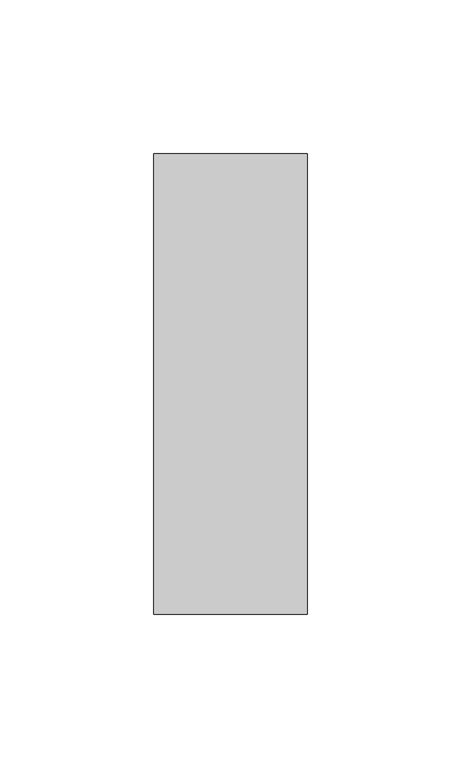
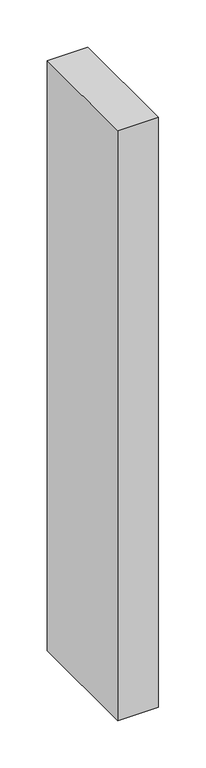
"""IFC4 building model written with IfcOpenShell, lengths in millimetres: member geometry, Прямоугольный импост : 50 x 150 мм."""

import ifcopenshell
import ifcopenshell.guid

model = None  # the IFC model being written
_history = None  # IfcOwnerHistory: only IFC2X3 demands one
_inside = {}  # id of a spatial element -> (the spatial element, [elements in it])
_under = {}  # id of a project, library or spatial element -> (it, [spatial elements below it])
_declared = {}  # id of a project -> (the project, [libraries it declares])
_typed = {}  # id of a type object -> (the type object, [elements of that type])
_made_of = {}  # id of a material, layer set ... -> (it, [elements and type objects made of it])


def new_model(schema):
    """Start an empty IFC model of exactly this schema.

    Asked for "IFC4X3", IfcOpenShell would pick the latest addendum, in which some entities
    have other attributes; the version numbers below select the first issue.
    IFC2X3 requires an IfcOwnerHistory on every rooted entity: one is made here for all.
    """
    global model, _history
    if schema == "IFC4X3":
        model = ifcopenshell.file(schema_version=(4, 3, 0, 0))
    else:
        model = ifcopenshell.file(schema=schema)
    _inside.clear()
    _under.clear()
    _declared.clear()
    _typed.clear()
    _made_of.clear()
    _history = None
    if model.schema == "IFC2X3":
        org = make("IfcOrganization", Name="unknown")
        user = make(
            "IfcPersonAndOrganization",
            ThePerson=make("IfcPerson", FamilyName="unknown"),
            TheOrganization=org,
        )
        app = make(
            "IfcApplication",
            ApplicationDeveloper=org,
            Version="unknown",
            ApplicationFullName="unknown",
            ApplicationIdentifier="unknown",
        )
        _history = make(
            "IfcOwnerHistory",
            OwningUser=user,
            OwningApplication=app,
            ChangeAction="ADDED",
            CreationDate=0,
        )
    return model


def make(cls, **values):
    """One entity of the class cls with the attributes given. An attribute that is None is left unset."""
    return model.create_entity(
        cls, **{name: value for name, value in values.items() if value is not None}
    )


def rooted(cls, **values):
    """An entity with a GlobalId (a new one), such as an element, a storey or a relation."""
    return make(cls, GlobalId=ifcopenshell.guid.new(), OwnerHistory=_history, **values)


def si_unit(unit_type, name, prefix=None):
    """IfcSIUnit, for example si_unit("LENGTHUNIT", "METRE", prefix="MILLI")."""
    return make("IfcSIUnit", UnitType=unit_type, Prefix=prefix, Name=name)


def assignment(units):
    """IfcUnitAssignment: the units of a project."""
    return None if units is None else make("IfcUnitAssignment", Units=units)


def point(xyz):
    """IfcCartesianPoint."""
    return None if xyz is None else make("IfcCartesianPoint", Coordinates=xyz)


def direction(xyz):
    """IfcDirection."""
    return None if xyz is None else make("IfcDirection", DirectionRatios=xyz)


def frame(location, z_axis=None, x_axis=None):
    """IfcAxis2Placement3D, a coordinate frame: its origin and axes. An axis left out is left unset."""
    return make(
        "IfcAxis2Placement3D",
        Location=point(location),
        Axis=direction(z_axis),
        RefDirection=direction(x_axis),
    )


def origin():
    """The frame at (0, 0, 0) with its axes left unset."""
    return frame((0.0, 0.0, 0.0))


def place(relative_to, where):
    """IfcLocalPlacement: puts the frame where relative to a parent placement (None: the world)."""
    return make(
        "IfcLocalPlacement", PlacementRelTo=relative_to, RelativePlacement=where
    )


def context(
    kind, dimensions, precision=None, world=None, true_north=None, identifier=None
):
    """IfcGeometricRepresentationContext, for example the 3D "Model" context."""
    return make(
        "IfcGeometricRepresentationContext",
        ContextIdentifier=identifier,
        ContextType=kind,
        CoordinateSpaceDimension=dimensions,
        Precision=precision,
        WorldCoordinateSystem=world,
        TrueNorth=true_north,
    )


def project(units=None, contexts=None):
    """IfcProject with its units and contexts."""
    return rooted(
        "IfcProject",
        Name="project",
        RepresentationContexts=contexts,
        UnitsInContext=assignment(units),
    )


def spatial(cls, under=None, at=None, **own):
    """A site, building, storey or space (cls), placed at a placement, below another one or the project."""
    s = rooted(cls, ObjectPlacement=at, **own)
    if under is not None:
        _under.setdefault(under.id(), (under, []))[1].append(s)
    return s


def polyline(points):
    """IfcPolyline through the points."""
    return make("IfcPolyline", Points=[point(p) for p in points])


def outline(outer, holes=None, kind="AREA"):
    """IfcArbitraryClosedProfileDef: a profile drawn as a closed curve; with holes, ...WithVoids."""
    if holes is None:
        return make("IfcArbitraryClosedProfileDef", ProfileType=kind, OuterCurve=outer)
    return make(
        "IfcArbitraryProfileDefWithVoids",
        ProfileType=kind,
        OuterCurve=outer,
        InnerCurves=holes,
    )


def extrude(swept, where, along, depth):
    """IfcExtrudedAreaSolid: the profile swept, set in the frame where, extruded along a direction by depth."""
    return make(
        "IfcExtrudedAreaSolid",
        SweptArea=swept,
        Position=where,
        ExtrudedDirection=direction(along),
        Depth=depth,
    )


def shape(context_of_items, identifier, shape_type, items):
    """IfcShapeRepresentation: the items that make up one representation, for example the "Body"."""
    return make(
        "IfcShapeRepresentation",
        ContextOfItems=context_of_items,
        RepresentationIdentifier=identifier,
        RepresentationType=shape_type,
        Items=items,
    )


def source(mapping_origin, context_of_items, identifier, shape_type, items):
    """IfcRepresentationMap: a shape defined once, which mapped items show again and again."""
    return make(
        "IfcRepresentationMap",
        MappingOrigin=mapping_origin,
        MappedRepresentation=shape(context_of_items, identifier, shape_type, items),
    )


def transform(
    local_origin,
    x_axis=None,
    y_axis=None,
    z_axis=None,
    scale=None,
    scale2=None,
    scale3=None,
    uniform=True,
):
    """IfcCartesianTransformationOperator3D, or its non-uniform kind. x_axis, y_axis, z_axis: its Axis1, 2, 3."""
    if uniform:
        return make(
            "IfcCartesianTransformationOperator3D",
            Axis1=direction(x_axis),
            Axis2=direction(y_axis),
            LocalOrigin=point(local_origin),
            Scale=scale,
            Axis3=direction(z_axis),
        )
    return make(
        "IfcCartesianTransformationOperator3DnonUniform",
        Axis1=direction(x_axis),
        Axis2=direction(y_axis),
        LocalOrigin=point(local_origin),
        Scale=scale,
        Axis3=direction(z_axis),
        Scale2=scale2,
        Scale3=scale3,
    )


def mapped(mapping_source, mapping_target):
    """IfcMappedItem: shows the shape of a source again, moved by a transform."""
    return make(
        "IfcMappedItem", MappingSource=mapping_source, MappingTarget=mapping_target
    )


def made_of(thing, what):
    """Note that an element or type object is made of a material, layer set ...; save() writes the relation."""
    if what is not None:
        _made_of.setdefault(what.id(), (what, []))[1].append(thing)
    return thing


def element(
    cls,
    number,
    at=None,
    inside=None,
    cuts=None,
    type_object=None,
    material=None,
    context=None,
    identifier="Body",
    shape_type=None,
    held_by="IfcProductDefinitionShape",
    body=None,
    shapes=None,
    **own,
):
    """One element of the class cls, such as IfcWall. Its Tag is "e" and its number.

    at: its placement. inside: the storey or other place that contains it. cuts: it is an
    opening in that element (IfcRelVoidsElement). A single representation is given by context,
    identifier, shape_type and body (its items); several are given by shapes. held_by: the class
    of the entity that holds the representations. save() writes the other relations.
    """
    e = rooted(cls, Tag="e%d" % number, ObjectPlacement=at, **own)
    if body is not None:
        shapes = [shape(context, identifier, shape_type, body)]
    if shapes is not None:
        e.Representation = make(held_by, Representations=shapes)
    if inside is not None:
        _inside.setdefault(inside.id(), (inside, []))[1].append(e)
    if cuts is not None:
        rooted(
            "IfcRelVoidsElement", RelatingBuildingElement=cuts, RelatedOpeningElement=e
        )
    if type_object is not None:
        _typed.setdefault(type_object.id(), (type_object, []))[1].append(e)
    return made_of(e, material)


def aggregate(whole, parts):
    """IfcRelAggregates: a whole, such as a stair, and the parts it consists of."""
    return rooted("IfcRelAggregates", RelatingObject=whole, RelatedObjects=parts)


def save(model, path):
    """Write the relations noted so far, then the file.

    IfcRelAggregates (storeys below a building ...), IfcRelContainedInSpatialStructure (elements
    in a storey), IfcRelDefinesByType, IfcRelAssociatesMaterial and IfcRelDeclares: one each for
    every whole, place, type object, material and project.
    """
    for whole, parts in _under.values():
        aggregate(whole, parts)
    for where, things in _inside.values():
        rooted(
            "IfcRelContainedInSpatialStructure",
            RelatedElements=things,
            RelatingStructure=where,
        )
    for kind, things in _typed.values():
        rooted("IfcRelDefinesByType", RelatedObjects=things, RelatingType=kind)
    for what, things in _made_of.values():
        rooted("IfcRelAssociatesMaterial", RelatedObjects=things, RelatingMaterial=what)
    for by, libraries in _declared.values():
        rooted("IfcRelDeclares", RelatingContext=by, RelatedDefinitions=libraries)
    model.write(path)


def member_ecf9e632(model_context):
    return source(origin(), model_context, "Body", "SweptSolid", [
        extrude(outline(polyline([(0.0, 75.0), (0.0, -75.0), (-50.0, -75.0), (-50.0, 75.0), (0.0, 75.0)])), frame((0.0, 0.0, -765.0), z_axis=(0.0, 0.0, 1.0), x_axis=(1.0, 0.0, 0.0)), (0.0, 0.0, 1.0), 765.0),
    ])


if __name__ == "__main__":
    model = new_model("IFC4")
    model_context = context("Model", 3, world=origin())
    ifc_project = project(units=[si_unit("LENGTHUNIT", "METRE", prefix="MILLI")], contexts=[model_context])
    site = spatial("IfcSite", under=ifc_project)
    building = spatial("IfcBuilding", under=site)
    placement = place(None, origin())
    member_shape = member_ecf9e632(model_context)
    element("IfcMember", 1, ObjectType="Прямоугольный импост : 50 x 150 мм", at=placement, inside=building, context=model_context, shape_type="MappedRepresentation", body=[
        mapped(member_shape, transform((0.0, 0.0, 0.0), x_axis=(1.0, 0.0, 0.0), y_axis=(0.0, 1.0, 0.0), z_axis=(0.0, 0.0, 1.0))),
    ])
    save(model, "model.ifc")
